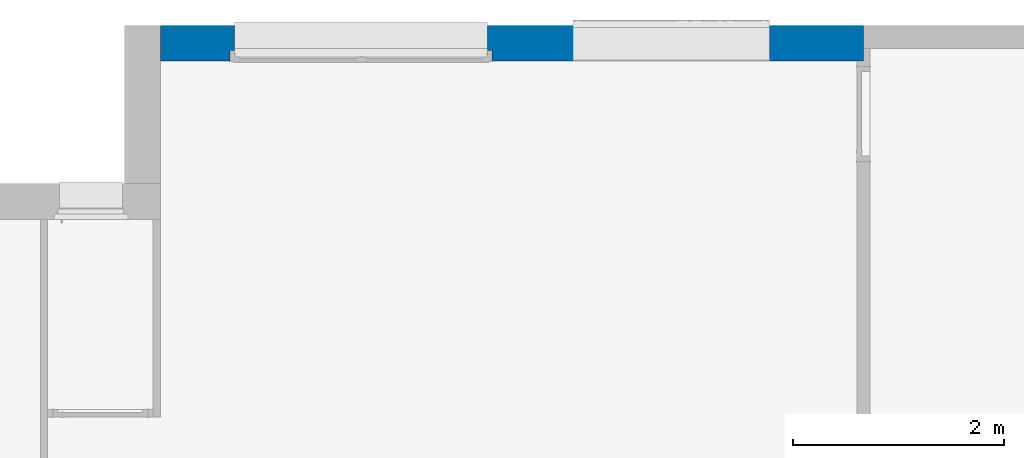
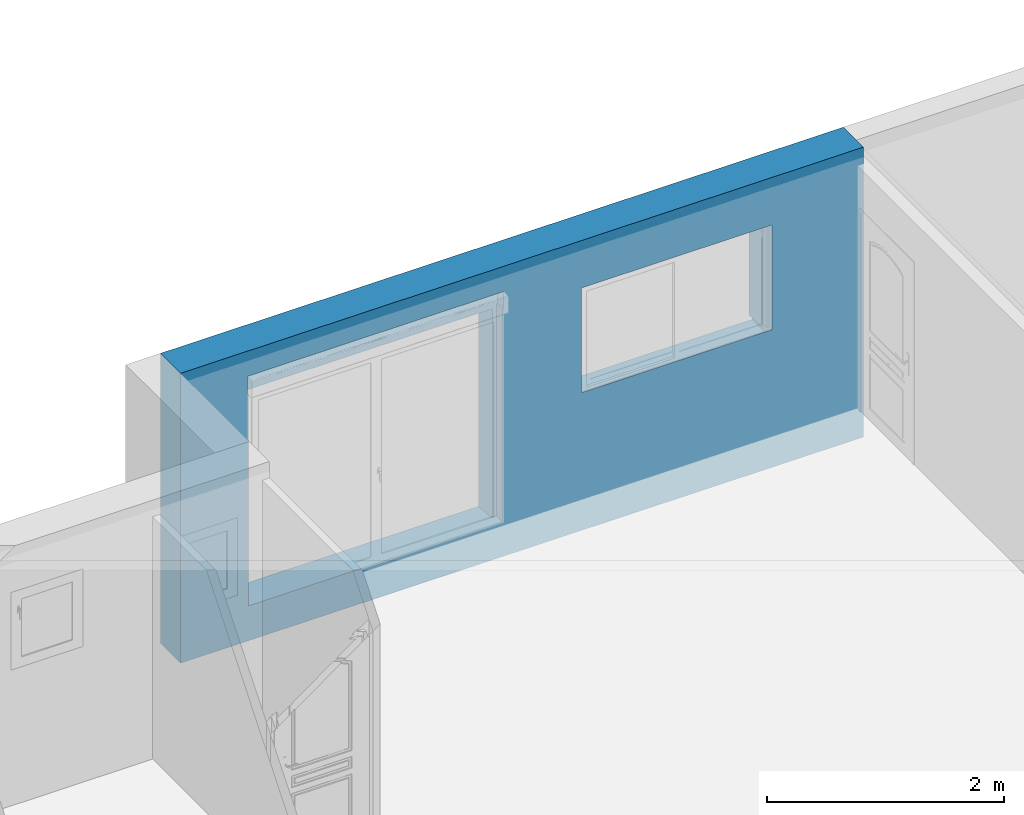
# One storey, part 19 of 23: 1 wall, 2 openings.
"""IFC2X3 building model written with IfcOpenShell, lengths in metres."""

from ifc_helpers import new_model, entity, si_unit, converted_unit, derived_unit, direction, frame, frame_2d, origin, place, context, subcontext, project, spatial, rectangle, extrude, faceted_brep, material, layer, layer_set, layer_usage, type_object, element, save


model = new_model("IFC2X3")

# Units and contexts
model_context = context("Model", 3, precision=1e-05, world=origin(), true_north=direction((6.12303176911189e-17, 1.0)))
body_context = subcontext(model_context, "Body", "Model", "MODEL_VIEW")
ifc_project = project(units=[si_unit("LENGTHUNIT", "METRE"), si_unit("AREAUNIT", "SQUARE_METRE"), si_unit("VOLUMEUNIT", "CUBIC_METRE"), converted_unit("PLANEANGLEUNIT", "DEGREE", entity("IfcRatioMeasure", 0.0174532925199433), si_unit("PLANEANGLEUNIT", "RADIAN"), dimensions=[0, 0, 0, 0, 0, 0, 0]), si_unit("MASSUNIT", "GRAM", prefix="KILO"), derived_unit("MASSDENSITYUNIT", [(si_unit("MASSUNIT", "GRAM", prefix="KILO"), 1), (si_unit("LENGTHUNIT", "METRE"), -3)]), si_unit("TIMEUNIT", "SECOND"), si_unit("FREQUENCYUNIT", "HERTZ"), si_unit("THERMODYNAMICTEMPERATUREUNIT", "DEGREE_CELSIUS"), derived_unit("THERMALTRANSMITTANCEUNIT", [(si_unit("MASSUNIT", "GRAM", prefix="KILO"), 1), (si_unit("THERMODYNAMICTEMPERATUREUNIT", "KELVIN"), -1), (si_unit("TIMEUNIT", "SECOND"), -3)]), derived_unit("VOLUMETRICFLOWRATEUNIT", [(si_unit("LENGTHUNIT", "METRE"), 3), (si_unit("TIMEUNIT", "SECOND"), -1)]), si_unit("ELECTRICCURRENTUNIT", "AMPERE"), si_unit("ELECTRICVOLTAGEUNIT", "VOLT"), si_unit("POWERUNIT", "WATT"), si_unit("FORCEUNIT", "NEWTON", prefix="KILO"), si_unit("ILLUMINANCEUNIT", "LUX"), si_unit("LUMINOUSFLUXUNIT", "LUMEN"), si_unit("LUMINOUSINTENSITYUNIT", "CANDELA"), derived_unit("USERDEFINED", [(si_unit("MASSUNIT", "GRAM", prefix="KILO"), -1), (si_unit("LENGTHUNIT", "METRE"), -2), (si_unit("TIMEUNIT", "SECOND"), 3), (si_unit("LUMINOUSFLUXUNIT", "LUMEN"), 1)]), derived_unit("LINEARVELOCITYUNIT", [(si_unit("LENGTHUNIT", "METRE"), 1), (si_unit("TIMEUNIT", "SECOND"), -1)]), si_unit("PRESSUREUNIT", "PASCAL"), derived_unit("USERDEFINED", [(si_unit("LENGTHUNIT", "METRE"), -2), (si_unit("MASSUNIT", "GRAM", prefix="KILO"), 1), (si_unit("TIMEUNIT", "SECOND"), -2)])], contexts=[model_context])

# Site, building, storey
site_placement = place(None, origin())
site = spatial("IfcSite", under=ifc_project, at=site_placement, Name="Default", CompositionType="ELEMENT")
building_placement = place(site_placement, origin())
building = spatial("IfcBuilding", under=site, at=building_placement, CompositionType="ELEMENT")
storey_placement = place(building_placement, origin())
storey = spatial("IfcBuildingStorey", under=building, at=storey_placement, Name="2 - Rez de Chaussée", CompositionType="ELEMENT", Elevation=-1.94916083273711e-14)

# Wall, openings
ifc_material_1 = material(Name="Maçonnerie - Enduit")
ifc_layer_1 = layer(ifc_material_1, 0.02)
ifc_material_2 = material(Name="Blocs béton manufacturés")
ifc_layer_2 = layer(ifc_material_2, 0.2)
ifc_material_3 = material(Name="TIFE, isolation extérieure")
ifc_layer_3 = layer(ifc_material_3, 0.12)
ifc_layer_set = layer_set([ifc_layer_1, ifc_layer_2, ifc_layer_3], Name="Mur de base:Isolant 10+1 vide 1 Parpaing 20 Enduit 2")
ifc_layer_usage = layer_usage(ifc_layer_set, "AXIS2", "NEGATIVE", 0.17)
wall_type = type_object("IfcWallType", Name="Mur de base:Isolant 10+1 vide 1 Parpaing 20 Enduit 2", PredefinedType="STANDARD", material=ifc_layer_set)
wall_placement = place(storey_placement, frame((-1.4162224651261, 6.46805500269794, -0.32)))
wall = element("IfcWallStandardCase", 1, at=wall_placement, inside=storey, type_object=wall_type, material=ifc_layer_usage, Name="Mur de base:Isolant 10+1 vide 1 Parpaing 20 Enduit 2", ObjectType="Mur de base:Isolant 10+1 vide 1 Parpaing 20 Enduit 2", context=body_context, shape_type="SweptSolid", body=[
    extrude(rectangle(XDim=6.66000000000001, YDim=0.340000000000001, at=frame_2d((3.33000000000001, 0.0), x_axis=(-1.0, 0.0))), origin(), (0.0, 0.0, 1.0), 2.99000000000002),
])
opening_1_placement = place(wall_placement, frame((0.650000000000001, -0.500000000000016, 0.324370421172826)))
element("IfcOpeningElement", 2, at=opening_1_placement, cuts=wall, Name="Mur de base:Isolant 10+1 vide 1 Parpaing 20 Enduit 2", ObjectType="Opening", context=body_context, shape_type="Brep", body=[
    faceted_brep([(2.44999999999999, 0.0, 2.18562957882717), (0.0499999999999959, 0.0, 2.18562957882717), (0.0499999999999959, 0.0, 0.0356295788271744), (2.44999999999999, 0.0, 0.0356295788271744), (2.45, 1.0, 2.18562957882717), (2.45, 1.0, 0.0356295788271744), (0.0500000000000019, 1.0, 0.0356295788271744), (0.0500000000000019, 1.0, 2.18562957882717), (2.45, 0.317000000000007, 2.18562957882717), (0.0499999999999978, 0.317000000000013, 2.18562957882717), (0.0499999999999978, 0.317000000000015, 0.0356295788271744), (0.00999999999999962, 0.317000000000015, 0.0356295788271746), (0.01, 0.430000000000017, 0.0356295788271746), (0.0499999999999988, 0.430000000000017, 0.0356295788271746), (0.0499999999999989, 0.427999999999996, 0.0356295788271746), (2.45, 0.427999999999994, 0.0356295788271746), (2.45, 0.430000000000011, 0.0356295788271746), (2.49, 0.430000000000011, 0.0356295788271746), (2.49, 0.317000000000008, 0.0356295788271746), (2.45, 0.317000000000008, 0.0356295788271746), (2.49, 0.317000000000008, 2.22562957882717), (0.00999999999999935, 0.317000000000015, 2.22562957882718), (0.00999999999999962, 0.430000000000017, 2.22562957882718), (0.0, 0.430000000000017, 2.22562957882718), (0.0, 0.430000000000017, 2.40562957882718), (2.5, 0.430000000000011, 2.40562957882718), (2.5, 0.430000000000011, 2.22562957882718), (2.49, 0.430000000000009, 2.22562957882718), (2.45, 0.430000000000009, 2.18562957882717), (0.0499999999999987, 0.430000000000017, 2.18562957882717), (0.0, 0.297000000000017, 2.40562957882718), (0.0, 0.297000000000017, 2.22562957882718), (2.5, 0.29700000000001, 2.40562957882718), (2.5, 0.29700000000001, 2.22562957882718), (0.0499999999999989, 0.427999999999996, 0.0237969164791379), (2.45, 0.427999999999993, 0.0237969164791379), (0.0500000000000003, 0.700000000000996, 0.0356295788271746), (2.45, 0.700000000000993, 0.0356295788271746), (2.45, 0.700000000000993, 0.0), (0.0499999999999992, 0.700000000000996, 0.0)], [[[0, 1, 2, 3]], [[4, 5, 6, 7]], [[0, 8, 9, 1]], [[1, 9, 10, 2]], [[2, 10, 11, 12, 13, 14, 15, 16, 17, 18, 19, 3]], [[3, 19, 8, 0]], [[10, 9, 8, 19, 18, 20, 21, 11]], [[11, 21, 22, 12]], [[12, 22, 23, 24, 25, 26, 27, 17, 16, 28, 29, 13]], [[18, 17, 27, 20]], [[30, 24, 23, 31]], [[32, 33, 26, 25]], [[30, 32, 25, 24]], [[23, 22, 21, 20, 27, 26, 33, 31]], [[31, 33, 32, 30]], [[34, 35, 15, 14]], [[36, 37, 38, 39]], [[39, 38, 35, 34]], [[4, 28, 16, 15, 35, 38, 37, 5]], [[5, 37, 36, 6]], [[6, 36, 39, 34, 14, 13, 29, 7]], [[7, 29, 28, 4]]]),
])
opening_2_placement = place(wall_placement, frame((3.91000000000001, -0.704379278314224, 1.32)))
element("IfcOpeningElement", 3, at=opening_2_placement, cuts=wall, Name="Mur de base:Isolant 10+1 vide 1 Parpaing 20 Enduit 2", ObjectType="Opening", context=body_context, shape_type="Brep", body=[
    faceted_brep([(1.84, 0.584379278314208, 0.0999999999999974), (1.84, 0.584379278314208, 1.15999999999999), (1.85999999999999, 0.584379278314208, 1.15999999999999), (1.85999999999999, 0.584379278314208, 0.0999999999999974), (0.0, 0.0, 1.18000000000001), (0.0, 0.0, 0.0999999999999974), (1.85999999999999, 0.0, 0.0999999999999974), (1.85999999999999, 0.0, 1.18000000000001), (0.0, 0.544379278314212, 1.18000000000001), (0.0, 0.544379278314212, 1.39999999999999), (0.0, 0.854379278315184, 1.39999999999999), (0.0, 0.854379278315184, 1.15), (0.0, 0.654379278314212, 1.15), (0.0, 0.654379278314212, 1.15999999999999), (0.0, 0.584379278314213, 1.15999999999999), (0.0, 0.584379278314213, 0.0999999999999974), (0.0, 0.654379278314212, 0.0999999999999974), (0.0, 0.654379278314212, 0.0692857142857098), (0.0, 0.924379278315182, 0.0499999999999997), (0.0, 0.924379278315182, 0.0), (0.0, 0.61437927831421, 0.0), (0.0, 0.544379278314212, 0.0699999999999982), (0.0, 0.544379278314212, 0.0999999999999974), (1.85999999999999, 0.544379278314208, 0.0999999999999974), (1.85999999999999, 0.544379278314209, 0.0699999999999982), (1.85999999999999, 0.614379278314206, 0.0), (1.85999999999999, 0.924379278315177, 0.0), (1.85999999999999, 0.924379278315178, 0.0499999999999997), (1.85999999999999, 0.654379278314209, 0.0692857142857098), (1.85999999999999, 0.654379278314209, 0.0999999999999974), (1.85999999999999, 0.654379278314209, 1.15999999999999), (1.85999999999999, 0.654379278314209, 1.15), (1.85999999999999, 0.85437927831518, 1.15), (1.85999999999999, 0.85437927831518, 1.39999999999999), (1.85999999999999, 0.544379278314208, 1.39999999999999), (1.85999999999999, 0.544379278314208, 1.18000000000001), (1.82999999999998, 1.37437927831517, 1.15), (1.82999999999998, 1.37437927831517, 0.0), (0.0299999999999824, 1.37437927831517, 0.0), (0.0299999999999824, 1.37437927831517, 1.15), (1.82999999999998, 0.854379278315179, 1.15), (1.82999999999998, 0.654379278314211, 1.15), (1.82999999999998, 0.654379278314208, 0.0692857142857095), (1.82999999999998, 0.924379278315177, 0.0499999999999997), (1.82999999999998, 0.924379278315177, 0.0), (0.0299999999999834, 0.924379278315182, 0.0), (0.0299999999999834, 0.924379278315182, 0.0499999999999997), (0.0299999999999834, 0.65437927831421, 0.06928571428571), (0.0299999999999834, 0.654379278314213, 1.15), (0.0299999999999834, 0.854379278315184, 1.15), (0.0200000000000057, 0.654379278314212, 0.0999999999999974), (0.0200000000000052, 0.654379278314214, 1.15), (1.84, 0.654379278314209, 0.0999999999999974), (1.84, 0.654379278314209, 1.15), (1.84, 0.654379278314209, 1.15999999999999), (0.0200000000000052, 0.584379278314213, 0.0999999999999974), (0.0200000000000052, 0.584379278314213, 1.15999999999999), (0.0200000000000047, 0.654379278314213, 1.15999999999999)], [[[0, 1, 2, 3]], [[4, 5, 6, 7]], [[5, 4, 8, 9, 10, 11, 12, 13, 14, 15, 16, 17, 18, 19, 20, 21, 22]], [[6, 5, 22, 23]], [[7, 6, 23, 24, 25, 26, 27, 28, 29, 3, 2, 30, 31, 32, 33, 34, 35]], [[4, 7, 35, 8]], [[36, 37, 38, 39]], [[37, 36, 40, 41, 42, 43, 44]], [[38, 37, 44, 26, 25, 20, 19, 45]], [[39, 38, 45, 46, 47, 48, 49]], [[36, 39, 49, 40]], [[17, 16, 50, 51, 48, 47]], [[1, 0, 52, 53, 54]], [[55, 56, 57, 51, 50]], [[22, 21, 24, 23]], [[21, 20, 25, 24]], [[19, 18, 46, 45]], [[46, 18, 17, 47]], [[15, 55, 50, 16]], [[10, 9, 34, 33]], [[9, 8, 35, 34]], [[14, 13, 57, 56]], [[13, 12, 51, 57]], [[12, 11, 49, 48, 51]], [[11, 10, 33, 32, 40, 49]], [[32, 31, 53, 41, 40]], [[31, 30, 54, 53]], [[30, 2, 1, 54]], [[0, 3, 29, 52]], [[27, 43, 42, 28]], [[27, 26, 44, 43]], [[52, 29, 28, 42, 41, 53]], [[56, 55, 15, 14]]]),
])

save(model, "model.ifc")
